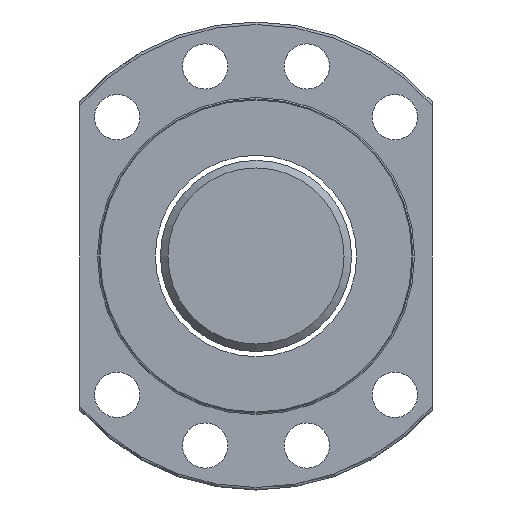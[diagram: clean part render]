
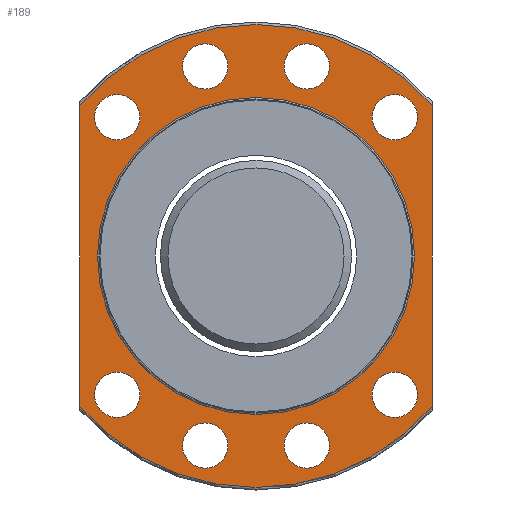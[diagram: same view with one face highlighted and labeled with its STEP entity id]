
A CAD part, left-side view. The second image highlights one B-rep face of the part: STEP entity #189.
In plain terms, the highlighted planar face has unit normal (-1, 0, 0).
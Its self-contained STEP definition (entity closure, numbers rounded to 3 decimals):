
#103=LINE('',#1429,#111);
#104=LINE('',#1430,#112);
#111=VECTOR('',#1057,1.);
#112=VECTOR('',#1058,1.);
#189=ADVANCED_FACE('',(#296,#297,#298,#299,#300,#301,#302,#303,#304,#252),
#228,.F.);
#228=PLANE('',#876);
#252=FACE_OUTER_BOUND('',#404,.T.);
#296=FACE_BOUND('',#395,.T.);
#297=FACE_BOUND('',#396,.T.);
#298=FACE_BOUND('',#397,.T.);
#299=FACE_BOUND('',#398,.T.);
#300=FACE_BOUND('',#399,.T.);
#301=FACE_BOUND('',#400,.T.);
#302=FACE_BOUND('',#401,.T.);
#303=FACE_BOUND('',#402,.T.);
#304=FACE_BOUND('',#403,.T.);
#395=EDGE_LOOP('',(#528));
#396=EDGE_LOOP('',(#529));
#397=EDGE_LOOP('',(#530));
#398=EDGE_LOOP('',(#531));
#399=EDGE_LOOP('',(#532));
#400=EDGE_LOOP('',(#533));
#401=EDGE_LOOP('',(#534));
#402=EDGE_LOOP('',(#535));
#403=EDGE_LOOP('',(#536));
#404=EDGE_LOOP('',(#537,#538,#539,#540));
#528=ORIENTED_EDGE('',*,*,#725,.T.);
#529=ORIENTED_EDGE('',*,*,#726,.T.);
#530=ORIENTED_EDGE('',*,*,#727,.T.);
#531=ORIENTED_EDGE('',*,*,#728,.T.);
#532=ORIENTED_EDGE('',*,*,#729,.T.);
#533=ORIENTED_EDGE('',*,*,#730,.T.);
#534=ORIENTED_EDGE('',*,*,#731,.T.);
#535=ORIENTED_EDGE('',*,*,#732,.T.);
#536=ORIENTED_EDGE('',*,*,#733,.T.);
#537=ORIENTED_EDGE('',*,*,#723,.F.);
#538=ORIENTED_EDGE('',*,*,#734,.T.);
#539=ORIENTED_EDGE('',*,*,#703,.F.);
#540=ORIENTED_EDGE('',*,*,#735,.F.);
#633=VERTEX_POINT('',#1274);
#634=VERTEX_POINT('',#1294);
#650=VERTEX_POINT('',#1388);
#651=VERTEX_POINT('',#1390);
#652=VERTEX_POINT('',#1412);
#653=VERTEX_POINT('',#1414);
#654=VERTEX_POINT('',#1416);
#655=VERTEX_POINT('',#1418);
#656=VERTEX_POINT('',#1420);
#657=VERTEX_POINT('',#1422);
#658=VERTEX_POINT('',#1424);
#659=VERTEX_POINT('',#1426);
#660=VERTEX_POINT('',#1428);
#703=EDGE_CURVE('',#634,#633,#772,.T.);
#723=EDGE_CURVE('',#650,#651,#785,.T.);
#725=EDGE_CURVE('',#652,#652,#786,.T.);
#726=EDGE_CURVE('',#653,#653,#787,.T.);
#727=EDGE_CURVE('',#654,#654,#788,.T.);
#728=EDGE_CURVE('',#655,#655,#789,.T.);
#729=EDGE_CURVE('',#656,#656,#790,.T.);
#730=EDGE_CURVE('',#657,#657,#791,.T.);
#731=EDGE_CURVE('',#658,#658,#792,.T.);
#732=EDGE_CURVE('',#659,#659,#793,.T.);
#733=EDGE_CURVE('',#660,#660,#794,.T.);
#734=EDGE_CURVE('',#650,#633,#103,.T.);
#735=EDGE_CURVE('',#651,#634,#104,.T.);
#772=CIRCLE('',#848,46.);
#785=CIRCLE('',#865,46.);
#786=CIRCLE('',#867,31.5);
#787=CIRCLE('',#868,4.5);
#788=CIRCLE('',#869,4.5);
#789=CIRCLE('',#870,4.5);
#790=CIRCLE('',#871,4.5);
#791=CIRCLE('',#872,4.5);
#792=CIRCLE('',#873,4.5);
#793=CIRCLE('',#874,4.5);
#794=CIRCLE('',#875,4.5);
#848=AXIS2_PLACEMENT_3D('',#1295,#997,#998);
#865=AXIS2_PLACEMENT_3D('',#1389,#1035,#1036);
#867=AXIS2_PLACEMENT_3D('',#1411,#1039,#1040);
#868=AXIS2_PLACEMENT_3D('',#1413,#1041,#1042);
#869=AXIS2_PLACEMENT_3D('',#1415,#1043,#1044);
#870=AXIS2_PLACEMENT_3D('',#1417,#1045,#1046);
#871=AXIS2_PLACEMENT_3D('',#1419,#1047,#1048);
#872=AXIS2_PLACEMENT_3D('',#1421,#1049,#1050);
#873=AXIS2_PLACEMENT_3D('',#1423,#1051,#1052);
#874=AXIS2_PLACEMENT_3D('',#1425,#1053,#1054);
#875=AXIS2_PLACEMENT_3D('',#1427,#1055,#1056);
#876=AXIS2_PLACEMENT_3D('',#1431,#1059,#1060);
#997=DIRECTION('',(1.,0.,0.));
#998=DIRECTION('',(0.,1.,0.));
#1035=DIRECTION('',(1.,0.,0.));
#1036=DIRECTION('',(0.,1.,0.));
#1039=DIRECTION('',(1.,0.,0.));
#1040=DIRECTION('',(0.,1.,0.));
#1041=DIRECTION('',(1.,0.,0.));
#1042=DIRECTION('',(0.,1.,0.));
#1043=DIRECTION('',(1.,0.,0.));
#1044=DIRECTION('',(0.,1.,0.));
#1045=DIRECTION('',(1.,0.,0.));
#1046=DIRECTION('',(0.,1.,0.));
#1047=DIRECTION('',(1.,0.,0.));
#1048=DIRECTION('',(0.,1.,0.));
#1049=DIRECTION('',(1.,0.,0.));
#1050=DIRECTION('',(0.,1.,0.));
#1051=DIRECTION('',(1.,0.,0.));
#1052=DIRECTION('',(0.,1.,0.));
#1053=DIRECTION('',(1.,0.,0.));
#1054=DIRECTION('',(0.,1.,0.));
#1055=DIRECTION('',(1.,0.,0.));
#1056=DIRECTION('',(0.,1.,0.));
#1057=DIRECTION('',(0.,0.,-1.));
#1058=DIRECTION('',(0.,0.,-1.));
#1059=DIRECTION('',(1.,0.,0.));
#1060=DIRECTION('',(0.,1.,0.));
#1274=CARTESIAN_POINT('',(-29.,35.,-29.85));
#1294=CARTESIAN_POINT('',(-29.,-35.,-29.85));
#1295=CARTESIAN_POINT('',(-29.,0.,0.));
#1388=CARTESIAN_POINT('',(-29.,35.,29.85));
#1389=CARTESIAN_POINT('',(-29.,0.,0.));
#1390=CARTESIAN_POINT('',(-29.,-35.,29.85));
#1411=CARTESIAN_POINT('',(-29.,0.,0.));
#1412=CARTESIAN_POINT('',(-29.,31.5,0.));
#1413=CARTESIAN_POINT('',(-29.,10.094,37.671));
#1414=CARTESIAN_POINT('',(-29.,14.594,37.671));
#1415=CARTESIAN_POINT('',(-29.,-10.094,37.671));
#1416=CARTESIAN_POINT('',(-29.,-5.594,37.671));
#1417=CARTESIAN_POINT('',(-29.,-10.094,-37.671));
#1418=CARTESIAN_POINT('',(-29.,-5.594,-37.671));
#1419=CARTESIAN_POINT('',(-29.,10.094,-37.671));
#1420=CARTESIAN_POINT('',(-29.,14.594,-37.671));
#1421=CARTESIAN_POINT('',(-29.,-27.577,-27.577));
#1422=CARTESIAN_POINT('',(-29.,-23.077,-27.577));
#1423=CARTESIAN_POINT('',(-29.,-27.577,27.577));
#1424=CARTESIAN_POINT('',(-29.,-23.077,27.577));
#1425=CARTESIAN_POINT('',(-29.,27.577,27.577));
#1426=CARTESIAN_POINT('',(-29.,32.077,27.577));
#1427=CARTESIAN_POINT('',(-29.,27.577,-27.577));
#1428=CARTESIAN_POINT('',(-29.,32.077,-27.577));
#1429=CARTESIAN_POINT('',(-29.,35.,0.));
#1430=CARTESIAN_POINT('',(-29.,-35.,0.));
#1431=CARTESIAN_POINT('',(-29.,38.75,0.));
